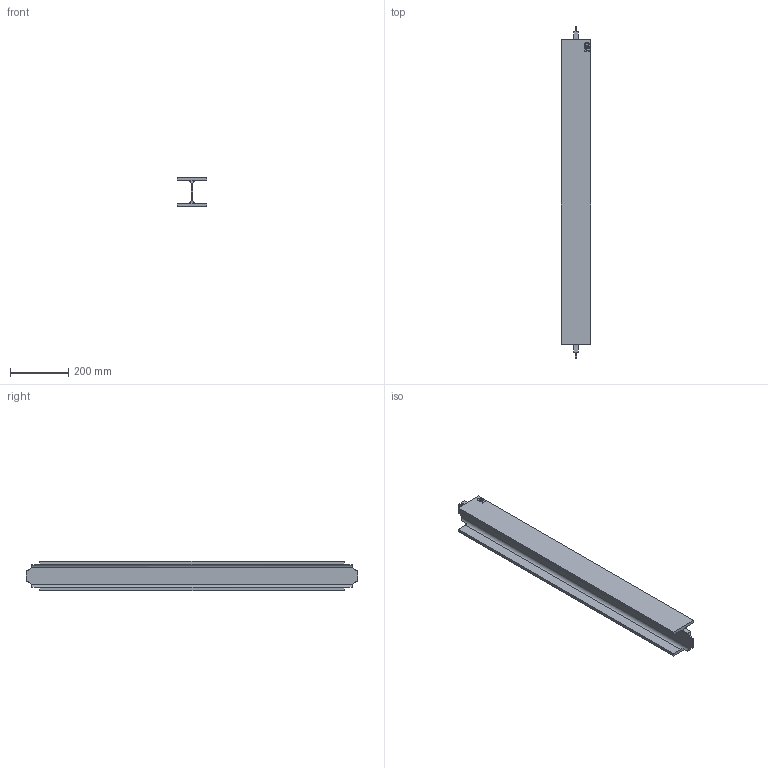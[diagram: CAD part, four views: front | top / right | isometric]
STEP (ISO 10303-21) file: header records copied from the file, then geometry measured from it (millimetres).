
FILE_DESCRIPTION (( 'STEP AP214' ), '1' );
FILE_NAME ('CCJ029-REP.081 - POUTRE INTERMEDIAIRE TYPE 2.STEP', '2025-10-31T14:29:51', ( '' ), ( '' ), 'SwSTEP 2.0', 'SolidWorks 2021', '' );
FILE_SCHEMA (( 'AUTOMOTIVE_DESIGN' ));
Length unit declared in the file: millimetre
Products named in the file (1): CCJ029-REP.081 - POUTRE INTERMEDIAIRE TYPE 2
Bounding box: 100 x 1140 x 100 mm (x, y, z)
Volume: 2762096.7 mm3; surface area: 613058.3 mm2
Topology: 1 solids, 1 shells, 68 faces, 180 edges, 120 vertices
Faces by surface type: plane 34, bspline 26, cylinder 8
Entity records: 3894 total; most frequent: CARTESIAN_POINT 2347, ORIENTED_EDGE 360, DIRECTION 222, EDGE_CURVE 180, VERTEX_POINT 120, LINE 104, VECTOR 104, EDGE_LOOP 74
